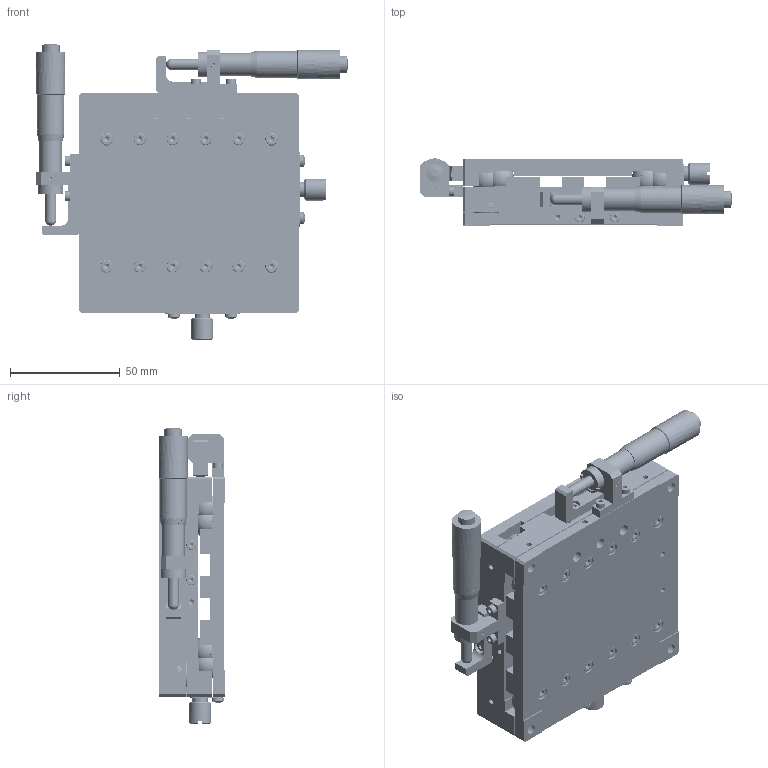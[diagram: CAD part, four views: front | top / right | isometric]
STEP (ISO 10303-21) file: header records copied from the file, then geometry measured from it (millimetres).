
FILE_DESCRIPTION (( 'STEP AP203' ), '1' );
FILE_NAME ('BPMB100.STEP', '2024-08-02T12:25:27', ( 'Windows User' ), ( 'P R C' ), 'SwSTEP 2.0', 'SolidWorks 2024', '' );
FILE_SCHEMA (( 'CONFIG_CONTROL_DESIGN' ));
Products named in the file (1): BPMB100
Bounding box: 141.95 x 30.4 x 134.8 mm (x, y, z)
Volume: 249220.1 mm3; surface area: 147854.4 mm2
Topology: 67 solids, 67 shells, 4148 faces, 10517 edges, 6753 vertices
Faces by surface type: plane 1650, bspline 1130, cylinder 764, cone 548, torus 50, sphere 6
Full cylindrical faces by diameter (mm): 1 x8, 2 x64, 2.05 x26, 2.5 x46, 2.55 x48, 3 x30, 3.1 x4, 3.2 x4, 3.3 x24, 3.4 x28, 4.4 x48, 4.5 x12, 5 x7, 5.5 x24, 5.6 x4, 5.8 x4, 6 x24, 7 x2, 8 x8, 8.1 x2, 9 x2, 9.5 x4, 10 x2, 10.373 x2, 11.5 x2, 12.25 x2, 13.3 x2, 15 x1
Entity records: 209320 total; most frequent: CARTESIAN_POINT 124372, ORIENTED_EDGE 18972, DIRECTION 12876, EDGE_CURVE 9486, VERTEX_POINT 6560, EDGE_LOOP 5812, AXIS2_PLACEMENT_3D 4771, FACE_OUTER_BOUND 4622
